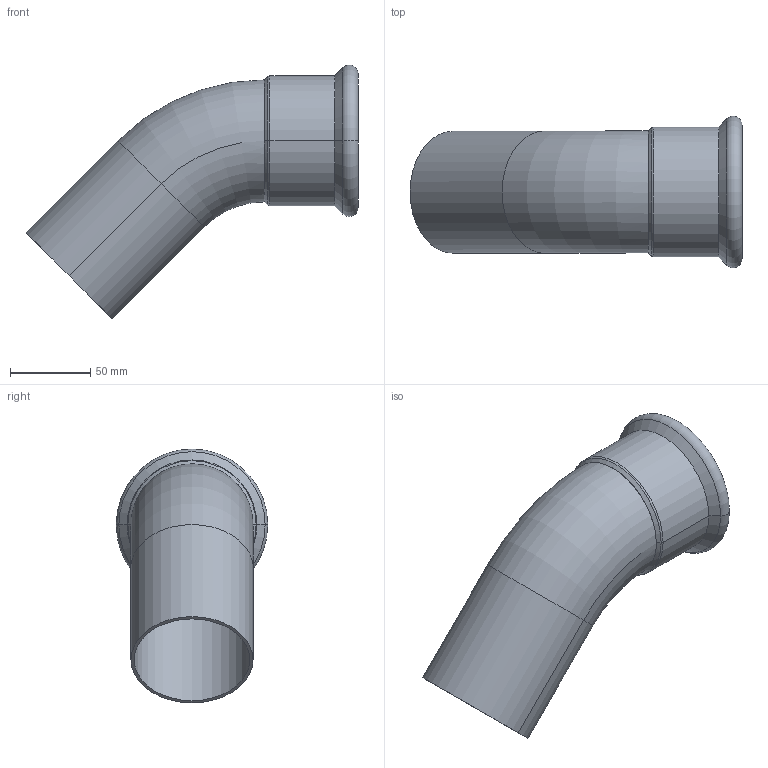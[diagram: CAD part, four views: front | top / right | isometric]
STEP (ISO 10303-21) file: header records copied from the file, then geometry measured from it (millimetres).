
FILE_DESCRIPTION(('CoCreate Modeling STEP Export'),'2;1');
FILE_NAME('C1412 76.1x76.1.stp','2014-11-11T16:44:48',(''),(''),'CoCreate Modeling STEP processor for AP214 (Solid Model)','CoCreate Modeling 17.00A 17-Jun-2010 (C) Parametric Technology GmbH','');
FILE_SCHEMA(('AUTOMOTIVE_DESIGN { 1 0 10303 214 1 1 1 1 }'));
Length unit declared in the file: millimetre
Products named in the file (2): C1412_76x76
Assembly tree (1 placements, depth 2):
  C1412_76x76
    C1412_76x76
Bounding box: 207.05 x 94.48 x 158.29 mm (x, y, z)
Volume: 119120.8 mm3; surface area: 104281 mm2
Topology: 1 solids, 1 shells, 31 faces, 70 edges, 43 vertices
Faces by surface type: cylinder 12, torus 8, plane 7, cone 4
Entity records: 2370 total; most frequent: CARTESIAN_POINT 1725, ORIENTED_EDGE 140, DIRECTION 106, EDGE_CURVE 70, AXIS2_PLACEMENT_3D 45, VERTEX_POINT 43, EDGE_LOOP 35, FACE_OUTER_BOUND 31
